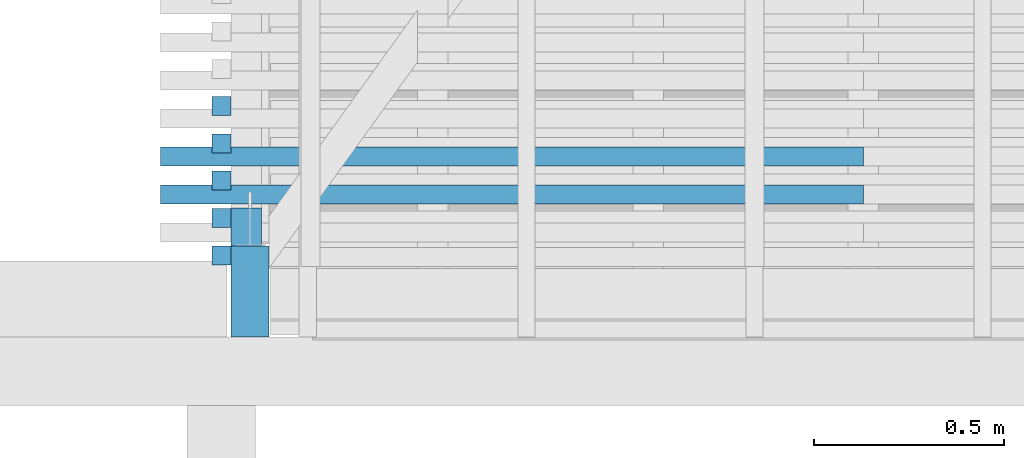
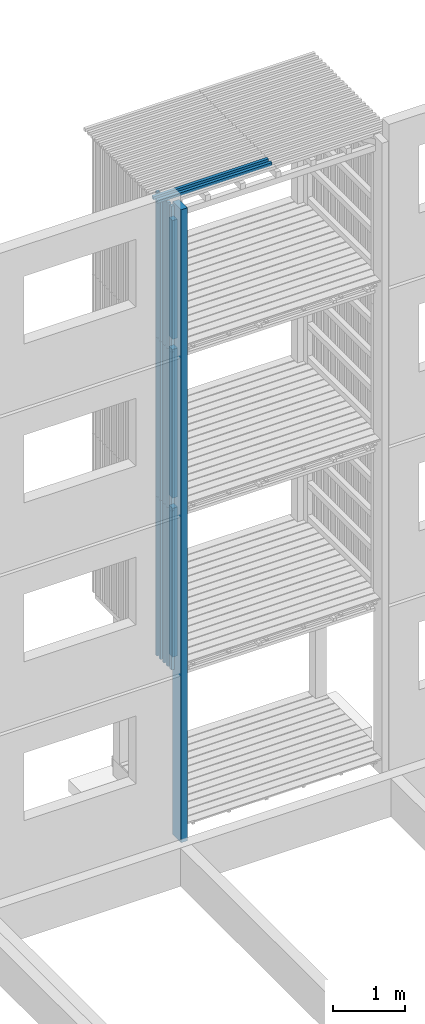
# One storey, part 84 of 182: 21 beams.
"""IFC2X3 building model written with IfcOpenShell, lengths in metres."""

import ifcopenshell
import ifcopenshell.guid

model = None  # the IFC model being written
_history = None  # IfcOwnerHistory: only IFC2X3 demands one
_inside = {}  # id of a spatial element -> (the spatial element, [elements in it])
_under = {}  # id of a project, library or spatial element -> (it, [spatial elements below it])
_declared = {}  # id of a project -> (the project, [libraries it declares])
_typed = {}  # id of a type object -> (the type object, [elements of that type])
_made_of = {}  # id of a material, layer set ... -> (it, [elements and type objects made of it])


def new_model(schema):
    """Start an empty IFC model of exactly this schema.

    Asked for "IFC4X3", IfcOpenShell would pick the latest addendum, in which some entities
    have other attributes; the version numbers below select the first issue.
    IFC2X3 requires an IfcOwnerHistory on every rooted entity: one is made here for all.
    """
    global model, _history
    if schema == "IFC4X3":
        model = ifcopenshell.file(schema_version=(4, 3, 0, 0))
    else:
        model = ifcopenshell.file(schema=schema)
    _inside.clear()
    _under.clear()
    _declared.clear()
    _typed.clear()
    _made_of.clear()
    _history = None
    if model.schema == "IFC2X3":
        org = make("IfcOrganization", Name="unknown")
        user = make(
            "IfcPersonAndOrganization",
            ThePerson=make("IfcPerson", FamilyName="unknown"),
            TheOrganization=org,
        )
        app = make(
            "IfcApplication",
            ApplicationDeveloper=org,
            Version="unknown",
            ApplicationFullName="unknown",
            ApplicationIdentifier="unknown",
        )
        _history = make(
            "IfcOwnerHistory",
            OwningUser=user,
            OwningApplication=app,
            ChangeAction="ADDED",
            CreationDate=0,
        )
    return model


def make(cls, **values):
    """One entity of the class cls with the attributes given. An attribute that is None is left unset."""
    return model.create_entity(
        cls, **{name: value for name, value in values.items() if value is not None}
    )


def rooted(cls, **values):
    """An entity with a GlobalId (a new one), such as an element, a storey or a relation."""
    return make(cls, GlobalId=ifcopenshell.guid.new(), OwnerHistory=_history, **values)


def si_unit(unit_type, name, prefix=None):
    """IfcSIUnit, for example si_unit("LENGTHUNIT", "METRE", prefix="MILLI")."""
    return make("IfcSIUnit", UnitType=unit_type, Prefix=prefix, Name=name)


def assignment(units):
    """IfcUnitAssignment: the units of a project."""
    return None if units is None else make("IfcUnitAssignment", Units=units)


def point(xyz):
    """IfcCartesianPoint."""
    return None if xyz is None else make("IfcCartesianPoint", Coordinates=xyz)


def direction(xyz):
    """IfcDirection."""
    return None if xyz is None else make("IfcDirection", DirectionRatios=xyz)


def frame(location, z_axis=None, x_axis=None):
    """IfcAxis2Placement3D, a coordinate frame: its origin and axes. An axis left out is left unset."""
    return make(
        "IfcAxis2Placement3D",
        Location=point(location),
        Axis=direction(z_axis),
        RefDirection=direction(x_axis),
    )


def origin():
    """The frame at (0, 0, 0) with its axes left unset."""
    return frame((0.0, 0.0, 0.0))


def place(relative_to, where):
    """IfcLocalPlacement: puts the frame where relative to a parent placement (None: the world)."""
    return make(
        "IfcLocalPlacement", PlacementRelTo=relative_to, RelativePlacement=where
    )


def context(
    kind, dimensions, precision=None, world=None, true_north=None, identifier=None
):
    """IfcGeometricRepresentationContext, for example the 3D "Model" context."""
    return make(
        "IfcGeometricRepresentationContext",
        ContextIdentifier=identifier,
        ContextType=kind,
        CoordinateSpaceDimension=dimensions,
        Precision=precision,
        WorldCoordinateSystem=world,
        TrueNorth=true_north,
    )


def project(units=None, contexts=None):
    """IfcProject with its units and contexts."""
    return rooted(
        "IfcProject",
        Name="project",
        RepresentationContexts=contexts,
        UnitsInContext=assignment(units),
    )


def spatial(cls, under=None, at=None, **own):
    """A site, building, storey or space (cls), placed at a placement, below another one or the project."""
    s = rooted(cls, ObjectPlacement=at, **own)
    if under is not None:
        _under.setdefault(under.id(), (under, []))[1].append(s)
    return s


def faces_of(points, faces, orient=None, outer=None):
    """IfcFace entities. A face is a list of loops; a loop is a list of indices into points, from 0.

    orient and outer hold one flag for each loop. By default every Orientation is true, the
    first loop of a face is its IfcFaceOuterBound and the others are IfcFaceBound.
    """
    made = []
    for i, loops in enumerate(faces):
        bounds = []
        for j, loop in enumerate(loops):
            is_outer = j == 0 if outer is None else outer[i][j]
            bounds.append(
                make(
                    "IfcFaceOuterBound" if is_outer else "IfcFaceBound",
                    Bound=make("IfcPolyLoop", Polygon=[points[k] for k in loop]),
                    Orientation=True if orient is None else orient[i][j],
                )
            )
        made.append(make("IfcFace", Bounds=bounds))
    return made


def faceted_brep(points, faces, orient=None, outer=None, voids=None):
    """IfcFacetedBrep: a solid bounded by flat faces; with voids (closed shells), ...WithVoids."""
    shared = [point(p) for p in points]
    hull = make("IfcClosedShell", CfsFaces=faces_of(shared, faces, orient, outer))
    if voids is None:
        return make("IfcFacetedBrep", Outer=hull)
    return make(
        "IfcFacetedBrepWithVoids",
        Outer=hull,
        Voids=[
            make(cls, CfsFaces=faces_of(shared, fs, o, b)) for cls, fs, o, b in voids
        ],
    )


def shape(context_of_items, identifier, shape_type, items):
    """IfcShapeRepresentation: the items that make up one representation, for example the "Body"."""
    return make(
        "IfcShapeRepresentation",
        ContextOfItems=context_of_items,
        RepresentationIdentifier=identifier,
        RepresentationType=shape_type,
        Items=items,
    )


def made_of(thing, what):
    """Note that an element or type object is made of a material, layer set ...; save() writes the relation."""
    if what is not None:
        _made_of.setdefault(what.id(), (what, []))[1].append(thing)
    return thing


def element(
    cls,
    number,
    at=None,
    inside=None,
    cuts=None,
    type_object=None,
    material=None,
    context=None,
    identifier="Body",
    shape_type=None,
    held_by="IfcProductDefinitionShape",
    body=None,
    shapes=None,
    **own,
):
    """One element of the class cls, such as IfcWall. Its Tag is "e" and its number.

    at: its placement. inside: the storey or other place that contains it. cuts: it is an
    opening in that element (IfcRelVoidsElement). A single representation is given by context,
    identifier, shape_type and body (its items); several are given by shapes. held_by: the class
    of the entity that holds the representations. save() writes the other relations.
    """
    e = rooted(cls, Tag="e%d" % number, ObjectPlacement=at, **own)
    if body is not None:
        shapes = [shape(context, identifier, shape_type, body)]
    if shapes is not None:
        e.Representation = make(held_by, Representations=shapes)
    if inside is not None:
        _inside.setdefault(inside.id(), (inside, []))[1].append(e)
    if cuts is not None:
        rooted(
            "IfcRelVoidsElement", RelatingBuildingElement=cuts, RelatedOpeningElement=e
        )
    if type_object is not None:
        _typed.setdefault(type_object.id(), (type_object, []))[1].append(e)
    return made_of(e, material)


def aggregate(whole, parts):
    """IfcRelAggregates: a whole, such as a stair, and the parts it consists of."""
    return rooted("IfcRelAggregates", RelatingObject=whole, RelatedObjects=parts)


def save(model, path):
    """Write the relations noted so far, then the file.

    IfcRelAggregates (storeys below a building ...), IfcRelContainedInSpatialStructure (elements
    in a storey), IfcRelDefinesByType, IfcRelAssociatesMaterial and IfcRelDeclares: one each for
    every whole, place, type object, material and project.
    """
    for whole, parts in _under.values():
        aggregate(whole, parts)
    for where, things in _inside.values():
        rooted(
            "IfcRelContainedInSpatialStructure",
            RelatedElements=things,
            RelatingStructure=where,
        )
    for kind, things in _typed.values():
        rooted("IfcRelDefinesByType", RelatedObjects=things, RelatingType=kind)
    for what, things in _made_of.values():
        rooted("IfcRelAssociatesMaterial", RelatedObjects=things, RelatingMaterial=what)
    for by, libraries in _declared.values():
        rooted("IfcRelDeclares", RelatingContext=by, RelatedDefinitions=libraries)
    model.write(path)


model = new_model("IFC2X3")

# Units and contexts
model_context = context("Model", 3, precision=1e-06, world=origin())
ifc_project = project(units=[si_unit("LENGTHUNIT", "METRE"), si_unit("PLANEANGLEUNIT", "RADIAN")], contexts=[model_context])

# Site, building, storey
site = spatial("IfcSite", under=ifc_project, CompositionType="ELEMENT")
building = spatial("IfcBuilding", under=site, CompositionType="ELEMENT")
storey = spatial("IfcBuildingStorey", under=building, Name="vs", CompositionType="ELEMENT", Elevation=-0.85)

# Beams
placement = place(None, origin())
beam_1_placement = place(placement, frame((44.68040135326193, 5.345077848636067, 10.47999999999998), z_axis=(0.0, 0.0, 1.0), x_axis=(-1.0, -2e-15, 0.0)))
element("IfcBeam", 1, at=beam_1_placement, inside=storey, Name="Bardage", context=model_context, shape_type="Brep", body=[
    faceted_brep([(1.850000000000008, -0.025000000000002, -0.024999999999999), (1.850000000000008, -0.025000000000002, 0.025000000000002), (-1e-15, -0.024999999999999, 0.025000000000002), (-1e-15, -0.024999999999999, -0.024999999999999), (1.850000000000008, -0.025000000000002, 0.025000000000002), (1.850000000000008, -0.025000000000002, -0.024999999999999), (1.850000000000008, 0.025000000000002, -0.024999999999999), (1.850000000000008, 0.025000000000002, 0.025000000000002), (1.850000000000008, 0.025000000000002, -0.024999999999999), (1.850000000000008, -0.025000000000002, -0.024999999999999), (-1e-15, -0.024999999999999, -0.024999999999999), (0.0, 0.025000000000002, -0.024999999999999), (1.850000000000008, 0.025000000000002, 0.025000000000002), (1.850000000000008, 0.025000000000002, -0.024999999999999), (0.0, 0.025000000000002, -0.024999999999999), (0.0, 0.025000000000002, 0.025000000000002), (-1e-15, -0.024999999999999, 0.025000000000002), (1.850000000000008, -0.025000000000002, 0.025000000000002), (1.850000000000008, 0.025000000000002, 0.025000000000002), (0.0, 0.025000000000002, 0.025000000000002), (-1e-15, -0.024999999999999, -0.024999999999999), (-1e-15, -0.024999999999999, 0.025000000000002), (0.0, 0.025000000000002, 0.025000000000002), (0.0, 0.025000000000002, -0.024999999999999)], [[[0, 1, 2, 3]], [[4, 5, 6, 7]], [[8, 9, 10, 11]], [[12, 13, 14, 15]], [[16, 17, 18, 19]], [[20, 21, 22, 23]]]),
])
beam_2_placement = place(placement, frame((44.68040135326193, 5.245077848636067, 10.47999999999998), z_axis=(0.0, 0.0, 1.0), x_axis=(-1.0, 0.0, 0.0)))
element("IfcBeam", 2, at=beam_2_placement, inside=storey, Name="Bardage", context=model_context, shape_type="Brep", body=[
    faceted_brep([(1.850000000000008, -0.024999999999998, -0.024999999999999), (1.850000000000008, -0.024999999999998, 0.025000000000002), (-1e-15, -0.024999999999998, 0.025000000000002), (-1e-15, -0.024999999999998, -0.024999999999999), (1.850000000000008, -0.024999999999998, 0.025000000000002), (1.850000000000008, -0.024999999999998, -0.024999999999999), (1.850000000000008, 0.025000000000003, -0.024999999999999), (1.850000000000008, 0.025000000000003, 0.025000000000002), (1.850000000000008, 0.025000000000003, -0.024999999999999), (1.850000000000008, -0.024999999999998, -0.024999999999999), (-1e-15, -0.024999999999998, -0.024999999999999), (-1e-15, 0.025000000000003, -0.024999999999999), (1.850000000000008, 0.025000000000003, 0.025000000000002), (1.850000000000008, 0.025000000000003, -0.024999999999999), (-1e-15, 0.025000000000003, -0.024999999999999), (-1e-15, 0.025000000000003, 0.025000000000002), (-1e-15, -0.024999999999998, 0.025000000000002), (1.850000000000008, -0.024999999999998, 0.025000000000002), (1.850000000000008, 0.025000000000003, 0.025000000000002), (-1e-15, 0.025000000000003, 0.025000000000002), (-1e-15, -0.024999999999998, -0.024999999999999), (-1e-15, -0.024999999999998, 0.025000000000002), (-1e-15, 0.025000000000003, 0.025000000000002), (-1e-15, 0.025000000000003, -0.024999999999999)], [[[0, 1, 2, 3]], [[4, 5, 6, 7]], [[8, 9, 10, 11]], [[12, 13, 14, 15]], [[16, 17, 18, 19]], [[20, 21, 22, 23]]]),
])
beam_3_placement = place(placement, frame((42.99040135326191, 5.379623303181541, 7.974999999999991), z_axis=(1.0, 0.0, 0.0), x_axis=(0.0, 1e-15, 1.0)))
element("IfcBeam", 3, at=beam_3_placement, inside=storey, Name="Bardage", context=model_context, shape_type="Brep", body=[
    faceted_brep([(0.0, -0.025000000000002, 0.025000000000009), (0.0, 0.024999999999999, 0.025000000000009), (0.0, 0.024999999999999, -0.025000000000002), (0.0, -0.025000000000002, -0.025000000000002), (2.479999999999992, 0.025000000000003, -0.025000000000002), (2.479999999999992, 0.025000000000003, 0.025000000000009), (2.479999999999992, -0.024999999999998, 0.025000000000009), (2.479999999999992, -0.024999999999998, -0.025000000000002), (0.0, 0.024999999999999, 0.025000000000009), (0.0, -0.025000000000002, 0.025000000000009), (2.479999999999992, -0.024999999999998, 0.025000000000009), (2.479999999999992, 0.025000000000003, 0.025000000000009), (0.0, 0.024999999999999, -0.025000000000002), (0.0, 0.024999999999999, 0.025000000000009), (2.479999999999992, 0.025000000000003, 0.025000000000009), (2.479999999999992, 0.025000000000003, -0.025000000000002), (0.0, -0.025000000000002, -0.025000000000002), (0.0, 0.024999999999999, -0.025000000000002), (2.479999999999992, 0.025000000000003, -0.025000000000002), (2.479999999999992, -0.024999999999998, -0.025000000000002), (2.479999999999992, -0.024999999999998, 0.025000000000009), (0.0, -0.025000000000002, 0.025000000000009), (0.0, -0.025000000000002, -0.025000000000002), (2.479999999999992, -0.024999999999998, -0.025000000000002)], [[[0, 1, 2, 3]], [[4, 5, 6, 7]], [[8, 9, 10, 11]], [[12, 13, 14, 15]], [[16, 17, 18, 19]], [[20, 21, 22, 23]]]),
])
beam_4_placement = place(placement, frame((42.99040135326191, 5.085077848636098, 7.974999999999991), z_axis=(1.0, 0.0, 0.0), x_axis=(0.0, 0.0, 1.0)))
element("IfcBeam", 4, at=beam_4_placement, inside=storey, Name="Bardage", context=model_context, shape_type="Brep", body=[
    faceted_brep([(0.0, -0.024999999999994, 0.025000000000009), (0.0, 0.025000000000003, 0.025000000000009), (0.0, 0.025000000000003, -0.025000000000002), (0.0, -0.024999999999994, -0.025000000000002), (2.479999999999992, 0.025000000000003, -0.025000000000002), (2.479999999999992, 0.025000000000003, 0.025000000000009), (2.479999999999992, -0.024999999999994, 0.025000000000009), (2.479999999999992, -0.024999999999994, -0.025000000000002), (0.0, 0.025000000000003, 0.025000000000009), (0.0, -0.024999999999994, 0.025000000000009), (2.479999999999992, -0.024999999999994, 0.025000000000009), (2.479999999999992, 0.025000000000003, 0.025000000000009), (0.0, 0.025000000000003, -0.025000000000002), (0.0, 0.025000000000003, 0.025000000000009), (2.479999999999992, 0.025000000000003, 0.025000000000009), (2.479999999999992, 0.025000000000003, -0.025000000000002), (0.0, -0.024999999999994, -0.025000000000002), (0.0, 0.025000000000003, -0.025000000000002), (2.479999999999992, 0.025000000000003, -0.025000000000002), (2.479999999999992, -0.024999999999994, -0.025000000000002), (2.479999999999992, -0.024999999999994, 0.025000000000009), (0.0, -0.024999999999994, 0.025000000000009), (0.0, -0.024999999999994, -0.025000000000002), (2.479999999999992, -0.024999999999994, -0.025000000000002)], [[[0, 1, 2, 3]], [[4, 5, 6, 7]], [[8, 9, 10, 11]], [[12, 13, 14, 15]], [[16, 17, 18, 19]], [[20, 21, 22, 23]]]),
])
beam_5_placement = place(placement, frame((42.99040135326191, 5.379623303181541, 5.274999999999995), z_axis=(1.0, 0.0, 0.0), x_axis=(0.0, 1e-15, 1.0)))
element("IfcBeam", 5, at=beam_5_placement, inside=storey, Name="Bardage", context=model_context, shape_type="Brep", body=[
    faceted_brep([(2.699999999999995, 0.025000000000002, 0.025000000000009), (2.699999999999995, -0.024999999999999, 0.025000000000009), (2.699999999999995, -0.024999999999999, -0.025000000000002), (2.699999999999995, 0.025000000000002, -0.025000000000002), (1e-15, 0.024999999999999, 0.025000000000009), (2.699999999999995, 0.025000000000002, 0.025000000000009), (2.699999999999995, 0.025000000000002, -0.025000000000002), (1e-15, 0.024999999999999, -0.025000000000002), (1e-15, -0.025000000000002, 0.025000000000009), (1e-15, 0.024999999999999, 0.025000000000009), (1e-15, 0.024999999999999, -0.025000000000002), (1e-15, -0.025000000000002, -0.025000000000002), (1e-15, 0.024999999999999, 0.025000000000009), (1e-15, -0.025000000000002, 0.025000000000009), (2.699999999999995, -0.024999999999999, 0.025000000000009), (2.699999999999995, 0.025000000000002, 0.025000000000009), (1e-15, -0.025000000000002, 0.025000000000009), (1e-15, -0.025000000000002, -0.025000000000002), (2.699999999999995, -0.024999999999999, -0.025000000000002), (2.699999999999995, -0.024999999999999, 0.025000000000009), (1e-15, -0.025000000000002, -0.025000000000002), (1e-15, 0.024999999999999, -0.025000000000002), (2.699999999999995, 0.025000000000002, -0.025000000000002), (2.699999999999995, -0.024999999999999, -0.025000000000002)], [[[0, 1, 2, 3]], [[4, 5, 6, 7]], [[8, 9, 10, 11]], [[12, 13, 14, 15]], [[16, 17, 18, 19]], [[20, 21, 22, 23]]]),
])
beam_6_placement = place(placement, frame((42.99040135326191, 5.281441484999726, 5.274999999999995), z_axis=(1.0, 0.0, 0.0), x_axis=(0.0, 0.0, 1.0)))
element("IfcBeam", 6, at=beam_6_placement, inside=storey, Name="Bardage", context=model_context, shape_type="Brep", body=[
    faceted_brep([(2.699999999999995, 0.024999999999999, 0.025000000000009), (2.699999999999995, -0.024999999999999, 0.025000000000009), (2.699999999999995, -0.024999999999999, -0.025000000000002), (2.699999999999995, 0.024999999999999, -0.025000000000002), (1e-15, 0.024999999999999, 0.025000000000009), (2.699999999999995, 0.024999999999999, 0.025000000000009), (2.699999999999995, 0.024999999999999, -0.025000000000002), (1e-15, 0.024999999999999, -0.025000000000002), (1e-15, -0.024999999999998, 0.025000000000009), (1e-15, 0.024999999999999, 0.025000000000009), (1e-15, 0.024999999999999, -0.025000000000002), (1e-15, -0.024999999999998, -0.025000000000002), (1e-15, 0.024999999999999, 0.025000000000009), (1e-15, -0.024999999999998, 0.025000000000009), (2.699999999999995, -0.024999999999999, 0.025000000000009), (2.699999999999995, 0.024999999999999, 0.025000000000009), (1e-15, -0.024999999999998, 0.025000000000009), (1e-15, -0.024999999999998, -0.025000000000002), (2.699999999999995, -0.024999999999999, -0.025000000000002), (2.699999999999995, -0.024999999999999, 0.025000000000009), (1e-15, -0.024999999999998, -0.025000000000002), (1e-15, 0.024999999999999, -0.025000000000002), (2.699999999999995, 0.024999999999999, -0.025000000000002), (2.699999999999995, -0.024999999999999, -0.025000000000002)], [[[0, 1, 2, 3]], [[4, 5, 6, 7]], [[8, 9, 10, 11]], [[12, 13, 14, 15]], [[16, 17, 18, 19]], [[20, 21, 22, 23]]]),
])
beam_7_placement = place(placement, frame((42.99040135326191, 5.183259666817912, 5.274999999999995), z_axis=(1.0, 0.0, 0.0), x_axis=(0.0, 0.0, 1.0)))
element("IfcBeam", 7, at=beam_7_placement, inside=storey, Name="Bardage", context=model_context, shape_type="Brep", body=[
    faceted_brep([(2.699999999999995, 0.025000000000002, 0.025000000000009), (2.699999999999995, -0.024999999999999, 0.025000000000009), (2.699999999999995, -0.024999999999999, -0.025000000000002), (2.699999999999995, 0.025000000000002, -0.025000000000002), (1e-15, 0.025000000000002, 0.025000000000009), (2.699999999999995, 0.025000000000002, 0.025000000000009), (2.699999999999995, 0.025000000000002, -0.025000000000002), (1e-15, 0.025000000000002, -0.025000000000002), (1e-15, -0.024999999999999, 0.025000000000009), (1e-15, 0.025000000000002, 0.025000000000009), (1e-15, 0.025000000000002, -0.025000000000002), (1e-15, -0.024999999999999, -0.025000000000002), (1e-15, 0.025000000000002, 0.025000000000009), (1e-15, -0.024999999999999, 0.025000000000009), (2.699999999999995, -0.024999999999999, 0.025000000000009), (2.699999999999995, 0.025000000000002, 0.025000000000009), (1e-15, -0.024999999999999, 0.025000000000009), (1e-15, -0.024999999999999, -0.025000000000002), (2.699999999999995, -0.024999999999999, -0.025000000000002), (2.699999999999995, -0.024999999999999, 0.025000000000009), (1e-15, -0.024999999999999, -0.025000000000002), (1e-15, 0.025000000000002, -0.025000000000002), (2.699999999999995, 0.025000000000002, -0.025000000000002), (2.699999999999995, -0.024999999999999, -0.025000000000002)], [[[0, 1, 2, 3]], [[4, 5, 6, 7]], [[8, 9, 10, 11]], [[12, 13, 14, 15]], [[16, 17, 18, 19]], [[20, 21, 22, 23]]]),
])
beam_8_placement = place(placement, frame((42.99040135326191, 5.379623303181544, 2.575000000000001), z_axis=(1.0, 0.0, 0.0), x_axis=(0.0, 0.0, 1.0)))
element("IfcBeam", 8, at=beam_8_placement, inside=storey, Name="Bardage", context=model_context, shape_type="Brep", body=[
    faceted_brep([(2.699961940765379, -0.025000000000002, 0.025000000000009), (2.699961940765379, -0.025000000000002, -0.025000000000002), (2.699961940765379, 0.025000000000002, -0.025000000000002), (2.699961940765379, 0.025000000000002, 0.025000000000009), (0.0, -0.024999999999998, 0.025000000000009), (2.699961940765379, -0.025000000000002, 0.025000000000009), (2.699961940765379, 0.025000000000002, 0.025000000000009), (0.0, 0.025000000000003, 0.025000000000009), (0.0, -0.024999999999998, 0.025000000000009), (0.0, 0.025000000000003, 0.025000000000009), (0.0, 0.025000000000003, -0.025000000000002), (0.0, -0.024999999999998, -0.025000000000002), (0.0, -0.024999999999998, 0.025000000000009), (0.0, -0.024999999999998, -0.025000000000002), (2.699961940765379, -0.025000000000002, -0.025000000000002), (2.699961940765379, -0.025000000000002, 0.025000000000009), (0.0, -0.024999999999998, -0.025000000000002), (0.0, 0.025000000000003, -0.025000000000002), (2.699961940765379, 0.025000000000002, -0.025000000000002), (2.699961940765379, -0.025000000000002, -0.025000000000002), (0.0, 0.025000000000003, -0.025000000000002), (0.0, 0.025000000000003, 0.025000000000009), (2.699961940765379, 0.025000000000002, 0.025000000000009), (2.699961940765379, 0.025000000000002, -0.025000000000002)], [[[0, 1, 2, 3]], [[4, 5, 6, 7]], [[8, 9, 10, 11]], [[12, 13, 14, 15]], [[16, 17, 18, 19]], [[20, 21, 22, 23]]]),
])
beam_9_placement = place(placement, frame((43.055401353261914, 5.160077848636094, 5.446999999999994), z_axis=(0.0, 1.0, 0.0), x_axis=(0.0, 0.0, 1.0)))
element("IfcBeam", 9, at=beam_9_placement, inside=storey, Name="Support bardage", context=model_context, shape_type="Brep", body=[
    faceted_brep([(2.527999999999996, -0.039999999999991, -0.050000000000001), (2.527999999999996, 0.040000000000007, -0.050000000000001), (2.527999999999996, 0.040000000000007, 0.05), (2.527999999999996, -0.039999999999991, 0.05), (-1e-15, -0.039999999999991, -0.050000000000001), (2.527999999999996, -0.039999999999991, -0.050000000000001), (2.527999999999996, -0.039999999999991, 0.05), (-1e-15, -0.039999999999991, 0.05), (-1e-15, -0.039999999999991, -0.050000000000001), (-1e-15, -0.039999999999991, 0.05), (-1e-15, 0.040000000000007, 0.05), (-1e-15, 0.040000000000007, -0.050000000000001), (-1e-15, -0.039999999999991, -0.050000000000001), (-1e-15, 0.040000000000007, -0.050000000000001), (2.527999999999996, 0.040000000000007, -0.050000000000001), (2.527999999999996, -0.039999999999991, -0.050000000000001), (-1e-15, 0.040000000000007, -0.050000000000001), (-1e-15, 0.040000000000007, 0.05), (2.527999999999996, 0.040000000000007, 0.05), (2.527999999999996, 0.040000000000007, -0.050000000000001), (-1e-15, 0.040000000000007, 0.05), (-1e-15, -0.039999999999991, 0.05), (2.527999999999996, -0.039999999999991, 0.05), (2.527999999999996, 0.040000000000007, 0.05)], [[[0, 1, 2, 3]], [[4, 5, 6, 7]], [[8, 9, 10, 11]], [[12, 13, 14, 15]], [[16, 17, 18, 19]], [[20, 21, 22, 23]]]),
])
beam_10_placement = place(placement, frame((42.99040135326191, 5.281441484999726, 7.974999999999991), z_axis=(1.0, 0.0, 0.0), x_axis=(0.0, 0.0, 1.0)))
element("IfcBeam", 10, at=beam_10_placement, inside=storey, Name="Bardage", context=model_context, shape_type="Brep", body=[
    faceted_brep([(0.0, -0.024999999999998, 0.025000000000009), (0.0, 0.024999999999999, 0.025000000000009), (0.0, 0.024999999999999, -0.025000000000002), (0.0, -0.024999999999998, -0.025000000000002), (2.479999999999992, 0.024999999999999, -0.025000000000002), (2.479999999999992, 0.024999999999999, 0.025000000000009), (2.479999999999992, -0.024999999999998, 0.025000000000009), (2.479999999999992, -0.024999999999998, -0.025000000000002), (0.0, 0.024999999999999, 0.025000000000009), (0.0, -0.024999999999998, 0.025000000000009), (2.479999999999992, -0.024999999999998, 0.025000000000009), (2.479999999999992, 0.024999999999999, 0.025000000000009), (0.0, 0.024999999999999, -0.025000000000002), (0.0, 0.024999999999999, 0.025000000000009), (2.479999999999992, 0.024999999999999, 0.025000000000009), (2.479999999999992, 0.024999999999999, -0.025000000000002), (0.0, -0.024999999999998, -0.025000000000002), (0.0, 0.024999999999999, -0.025000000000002), (2.479999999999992, 0.024999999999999, -0.025000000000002), (2.479999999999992, -0.024999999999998, -0.025000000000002), (2.479999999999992, -0.024999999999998, 0.025000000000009), (0.0, -0.024999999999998, 0.025000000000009), (0.0, -0.024999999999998, -0.025000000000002), (2.479999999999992, -0.024999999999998, -0.025000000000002)], [[[0, 1, 2, 3]], [[4, 5, 6, 7]], [[8, 9, 10, 11]], [[12, 13, 14, 15]], [[16, 17, 18, 19]], [[20, 21, 22, 23]]]),
])
beam_11_placement = place(placement, frame((42.99040135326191, 5.281441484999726, 2.575000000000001), z_axis=(1.0, 0.0, 0.0), x_axis=(0.0, 0.0, 1.0)))
element("IfcBeam", 11, at=beam_11_placement, inside=storey, Name="Bardage", context=model_context, shape_type="Brep", body=[
    faceted_brep([(2.699961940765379, -0.024999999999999, 0.025000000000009), (2.699961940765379, -0.024999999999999, -0.025000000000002), (2.699961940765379, 0.024999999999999, -0.025000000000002), (2.699961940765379, 0.024999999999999, 0.025000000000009), (0.0, -0.024999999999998, 0.025000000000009), (2.699961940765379, -0.024999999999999, 0.025000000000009), (2.699961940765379, 0.024999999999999, 0.025000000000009), (0.0, 0.024999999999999, 0.025000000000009), (0.0, -0.024999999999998, 0.025000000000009), (0.0, 0.024999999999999, 0.025000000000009), (0.0, 0.024999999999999, -0.025000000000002), (0.0, -0.024999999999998, -0.025000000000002), (0.0, -0.024999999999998, 0.025000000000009), (0.0, -0.024999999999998, -0.025000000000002), (2.699961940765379, -0.024999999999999, -0.025000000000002), (2.699961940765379, -0.024999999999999, 0.025000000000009), (0.0, -0.024999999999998, -0.025000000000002), (0.0, 0.024999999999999, -0.025000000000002), (2.699961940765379, 0.024999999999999, -0.025000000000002), (2.699961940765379, -0.024999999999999, -0.025000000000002), (0.0, 0.024999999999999, -0.025000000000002), (0.0, 0.024999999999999, 0.025000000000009), (2.699961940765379, 0.024999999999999, 0.025000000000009), (2.699961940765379, 0.024999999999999, -0.025000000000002)], [[[0, 1, 2, 3]], [[4, 5, 6, 7]], [[8, 9, 10, 11]], [[12, 13, 14, 15]], [[16, 17, 18, 19]], [[20, 21, 22, 23]]]),
])
for number, where, z_axis, x_axis in (
    (12, (42.99040135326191, 5.477805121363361, 2.575000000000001), (1.0, 0.0, 0.0), (0.0, 0.0, 1.0)),
    (13, (42.99040135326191, 5.183259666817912, 2.575000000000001), (1.0, 0.0, 0.0), (0.0, 0.0, 1.0)),
):
    element("IfcBeam", number, at=place(placement, frame(where, z_axis=z_axis, x_axis=x_axis)), inside=storey, Name="Bardage", context=model_context, shape_type="Brep", body=[
        faceted_brep([(2.699961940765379, -0.024999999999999, 0.025000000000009), (2.699961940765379, -0.024999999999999, -0.025000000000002), (2.699961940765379, 0.025000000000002, -0.025000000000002), (2.699961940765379, 0.025000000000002, 0.025000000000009), (0.0, -0.024999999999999, 0.025000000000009), (2.699961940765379, -0.024999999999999, 0.025000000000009), (2.699961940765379, 0.025000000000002, 0.025000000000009), (0.0, 0.025000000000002, 0.025000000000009), (0.0, -0.024999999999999, 0.025000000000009), (0.0, 0.025000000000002, 0.025000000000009), (0.0, 0.025000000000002, -0.025000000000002), (0.0, -0.024999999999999, -0.025000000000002), (0.0, -0.024999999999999, 0.025000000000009), (0.0, -0.024999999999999, -0.025000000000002), (2.699961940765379, -0.024999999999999, -0.025000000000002), (2.699961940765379, -0.024999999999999, 0.025000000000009), (0.0, -0.024999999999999, -0.025000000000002), (0.0, 0.025000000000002, -0.025000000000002), (2.699961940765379, 0.025000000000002, -0.025000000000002), (2.699961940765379, -0.024999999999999, -0.025000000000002), (0.0, 0.025000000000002, -0.025000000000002), (0.0, 0.025000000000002, 0.025000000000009), (2.699961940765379, 0.025000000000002, 0.025000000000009), (2.699961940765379, 0.025000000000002, -0.025000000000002)], [[[0, 1, 2, 3]], [[4, 5, 6, 7]], [[8, 9, 10, 11]], [[12, 13, 14, 15]], [[16, 17, 18, 19]], [[20, 21, 22, 23]]]),
    ])
beam_12_placement = place(placement, frame((42.99040135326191, 5.477805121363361, 7.974999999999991), z_axis=(1.0, 0.0, 0.0), x_axis=(0.0, 0.0, 1.0)))
element("IfcBeam", 14, at=beam_12_placement, inside=storey, Name="Bardage", context=model_context, shape_type="Brep", body=[
    faceted_brep([(0.0, -0.024999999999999, 0.025000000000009), (0.0, 0.025000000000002, 0.025000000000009), (0.0, 0.025000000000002, -0.025000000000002), (0.0, -0.024999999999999, -0.025000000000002), (2.479999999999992, 0.025000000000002, -0.025000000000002), (2.479999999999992, 0.025000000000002, 0.025000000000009), (2.479999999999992, -0.024999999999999, 0.025000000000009), (2.479999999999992, -0.024999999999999, -0.025000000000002), (0.0, 0.025000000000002, 0.025000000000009), (0.0, -0.024999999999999, 0.025000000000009), (2.479999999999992, -0.024999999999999, 0.025000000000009), (2.479999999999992, 0.025000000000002, 0.025000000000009), (0.0, 0.025000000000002, -0.025000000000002), (0.0, 0.025000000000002, 0.025000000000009), (2.479999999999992, 0.025000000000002, 0.025000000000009), (2.479999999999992, 0.025000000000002, -0.025000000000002), (0.0, -0.024999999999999, -0.025000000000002), (0.0, 0.025000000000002, -0.025000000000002), (2.479999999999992, 0.025000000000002, -0.025000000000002), (2.479999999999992, -0.024999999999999, -0.025000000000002), (2.479999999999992, -0.024999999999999, 0.025000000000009), (0.0, -0.024999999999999, 0.025000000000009), (0.0, -0.024999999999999, -0.025000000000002), (2.479999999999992, -0.024999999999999, -0.025000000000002)], [[[0, 1, 2, 3]], [[4, 5, 6, 7]], [[8, 9, 10, 11]], [[12, 13, 14, 15]], [[16, 17, 18, 19]], [[20, 21, 22, 23]]]),
])
beam_13_placement = place(placement, frame((43.055401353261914, 5.160077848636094, 8.14699999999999), z_axis=(0.0, 1.0, 0.0), x_axis=(0.0, 0.0, 1.0)))
element("IfcBeam", 15, at=beam_13_placement, inside=storey, Name="Support bardage", context=model_context, shape_type="Brep", body=[
    faceted_brep([(2.017999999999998, -0.039999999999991, 0.05), (2.017999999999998, -0.039999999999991, -0.050000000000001), (2.017999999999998, 0.040000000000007, -0.050000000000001), (2.017999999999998, 0.040000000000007, 0.05), (1e-15, -0.039999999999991, -0.050000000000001), (1e-15, -0.039999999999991, 0.05), (1e-15, 0.040000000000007, 0.05), (1e-15, 0.040000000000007, -0.050000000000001), (2.017999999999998, 0.040000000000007, -0.050000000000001), (2.017999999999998, -0.039999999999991, -0.050000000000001), (1e-15, -0.039999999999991, -0.050000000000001), (1e-15, 0.040000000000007, -0.050000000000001), (1e-15, -0.039999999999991, -0.050000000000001), (2.017999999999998, -0.039999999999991, -0.050000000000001), (2.017999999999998, -0.039999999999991, 0.05), (1e-15, -0.039999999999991, 0.05), (1e-15, -0.039999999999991, 0.05), (2.017999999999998, -0.039999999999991, 0.05), (2.017999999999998, 0.040000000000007, 0.05), (1e-15, 0.040000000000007, 0.05), (1e-15, 0.040000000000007, 0.05), (2.017999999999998, 0.040000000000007, 0.05), (2.017999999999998, 0.040000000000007, -0.050000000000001), (1e-15, 0.040000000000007, -0.050000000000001)], [[[0, 1, 2, 3]], [[4, 5, 6, 7]], [[8, 9, 10, 11]], [[12, 13, 14, 15]], [[16, 17, 18, 19]], [[20, 21, 22, 23]]]),
])
beam_14_placement = place(placement, frame((42.99040135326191, 5.085077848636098, 5.274999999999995), z_axis=(1.0, 0.0, 0.0), x_axis=(0.0, 0.0, 1.0)))
element("IfcBeam", 16, at=beam_14_placement, inside=storey, Name="Bardage", context=model_context, shape_type="Brep", body=[
    faceted_brep([(2.699999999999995, 0.025000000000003, 0.025000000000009), (2.699999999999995, -0.024999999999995, 0.025000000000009), (2.699999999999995, -0.024999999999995, -0.025000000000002), (2.699999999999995, 0.025000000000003, -0.025000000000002), (1e-15, 0.025000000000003, 0.025000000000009), (2.699999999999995, 0.025000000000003, 0.025000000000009), (2.699999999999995, 0.025000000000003, -0.025000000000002), (1e-15, 0.025000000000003, -0.025000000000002), (1e-15, -0.024999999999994, 0.025000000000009), (1e-15, 0.025000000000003, 0.025000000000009), (1e-15, 0.025000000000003, -0.025000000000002), (1e-15, -0.024999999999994, -0.025000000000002), (1e-15, 0.025000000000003, 0.025000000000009), (1e-15, -0.024999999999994, 0.025000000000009), (2.699999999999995, -0.024999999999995, 0.025000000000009), (2.699999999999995, 0.025000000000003, 0.025000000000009), (1e-15, -0.024999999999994, 0.025000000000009), (1e-15, -0.024999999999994, -0.025000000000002), (2.699999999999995, -0.024999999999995, -0.025000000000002), (2.699999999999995, -0.024999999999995, 0.025000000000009), (1e-15, -0.024999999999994, -0.025000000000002), (1e-15, 0.025000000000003, -0.025000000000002), (2.699999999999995, 0.025000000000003, -0.025000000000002), (2.699999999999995, -0.024999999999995, -0.025000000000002)], [[[0, 1, 2, 3]], [[4, 5, 6, 7]], [[8, 9, 10, 11]], [[12, 13, 14, 15]], [[16, 17, 18, 19]], [[20, 21, 22, 23]]]),
])
beam_15_placement = place(placement, frame((42.99040135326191, 5.085077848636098, 2.575000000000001), z_axis=(1.0, 0.0, 0.0), x_axis=(0.0, 0.0, 1.0)))
element("IfcBeam", 17, at=beam_15_placement, inside=storey, Name="Bardage", context=model_context, shape_type="Brep", body=[
    faceted_brep([(2.699961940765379, -0.024999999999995, 0.025000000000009), (2.699961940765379, -0.024999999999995, -0.025000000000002), (2.699961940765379, 0.025000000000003, -0.025000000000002), (2.699961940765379, 0.025000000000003, 0.025000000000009), (0.0, -0.024999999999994, 0.025000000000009), (2.699961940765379, -0.024999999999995, 0.025000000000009), (2.699961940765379, 0.025000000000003, 0.025000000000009), (0.0, 0.025000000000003, 0.025000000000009), (0.0, -0.024999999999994, 0.025000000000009), (0.0, 0.025000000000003, 0.025000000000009), (0.0, 0.025000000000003, -0.025000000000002), (0.0, -0.024999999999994, -0.025000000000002), (0.0, -0.024999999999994, 0.025000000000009), (0.0, -0.024999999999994, -0.025000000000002), (2.699961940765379, -0.024999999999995, -0.025000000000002), (2.699961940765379, -0.024999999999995, 0.025000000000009), (0.0, -0.024999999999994, -0.025000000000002), (0.0, 0.025000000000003, -0.025000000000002), (2.699961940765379, 0.025000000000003, -0.025000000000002), (2.699961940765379, -0.024999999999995, -0.025000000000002), (0.0, 0.025000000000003, -0.025000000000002), (0.0, 0.025000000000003, 0.025000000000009), (2.699961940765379, 0.025000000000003, 0.025000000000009), (2.699961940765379, 0.025000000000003, -0.025000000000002)], [[[0, 1, 2, 3]], [[4, 5, 6, 7]], [[8, 9, 10, 11]], [[12, 13, 14, 15]], [[16, 17, 18, 19]], [[20, 21, 22, 23]]]),
])
beam_16_placement = place(placement, frame((42.99040135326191, 5.477805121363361, 5.274999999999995), z_axis=(1.0, 0.0, 0.0), x_axis=(0.0, 0.0, 1.0)))
element("IfcBeam", 18, at=beam_16_placement, inside=storey, Name="Bardage", context=model_context, shape_type="Brep", body=[
    faceted_brep([(2.699999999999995, 0.025000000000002, 0.025000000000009), (2.699999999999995, -0.024999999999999, 0.025000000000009), (2.699999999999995, -0.024999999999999, -0.025000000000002), (2.699999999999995, 0.025000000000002, -0.025000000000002), (1e-15, 0.025000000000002, 0.025000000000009), (2.699999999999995, 0.025000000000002, 0.025000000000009), (2.699999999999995, 0.025000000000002, -0.025000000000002), (1e-15, 0.025000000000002, -0.025000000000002), (1e-15, -0.024999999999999, 0.025000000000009), (1e-15, 0.025000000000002, 0.025000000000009), (1e-15, 0.025000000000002, -0.025000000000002), (1e-15, -0.024999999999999, -0.025000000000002), (1e-15, 0.025000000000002, 0.025000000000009), (1e-15, -0.024999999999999, 0.025000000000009), (2.699999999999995, -0.024999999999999, 0.025000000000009), (2.699999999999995, 0.025000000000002, 0.025000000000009), (1e-15, -0.024999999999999, 0.025000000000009), (1e-15, -0.024999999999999, -0.025000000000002), (2.699999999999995, -0.024999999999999, -0.025000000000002), (2.699999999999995, -0.024999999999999, 0.025000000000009), (1e-15, -0.024999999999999, -0.025000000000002), (1e-15, 0.025000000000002, -0.025000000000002), (2.699999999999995, 0.025000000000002, -0.025000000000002), (2.699999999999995, -0.024999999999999, -0.025000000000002)], [[[0, 1, 2, 3]], [[4, 5, 6, 7]], [[8, 9, 10, 11]], [[12, 13, 14, 15]], [[16, 17, 18, 19]], [[20, 21, 22, 23]]]),
])
beam_17_placement = place(placement, frame((42.99040135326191, 5.183259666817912, 7.974999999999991), z_axis=(1.0, 0.0, 0.0), x_axis=(0.0, 0.0, 1.0)))
element("IfcBeam", 19, at=beam_17_placement, inside=storey, Name="Bardage", context=model_context, shape_type="Brep", body=[
    faceted_brep([(0.0, -0.024999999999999, 0.025000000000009), (0.0, 0.025000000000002, 0.025000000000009), (0.0, 0.025000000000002, -0.025000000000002), (0.0, -0.024999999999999, -0.025000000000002), (2.479999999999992, 0.025000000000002, -0.025000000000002), (2.479999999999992, 0.025000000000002, 0.025000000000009), (2.479999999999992, -0.024999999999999, 0.025000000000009), (2.479999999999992, -0.024999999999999, -0.025000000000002), (0.0, 0.025000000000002, 0.025000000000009), (0.0, -0.024999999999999, 0.025000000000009), (2.479999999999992, -0.024999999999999, 0.025000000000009), (2.479999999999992, 0.025000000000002, 0.025000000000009), (0.0, 0.025000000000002, -0.025000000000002), (0.0, 0.025000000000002, 0.025000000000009), (2.479999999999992, 0.025000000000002, 0.025000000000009), (2.479999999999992, 0.025000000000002, -0.025000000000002), (0.0, -0.024999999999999, -0.025000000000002), (0.0, 0.025000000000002, -0.025000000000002), (2.479999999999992, 0.025000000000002, -0.025000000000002), (2.479999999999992, -0.024999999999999, -0.025000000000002), (2.479999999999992, -0.024999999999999, 0.025000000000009), (0.0, -0.024999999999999, 0.025000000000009), (0.0, -0.024999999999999, -0.025000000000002), (2.479999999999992, -0.024999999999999, -0.025000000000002)], [[[0, 1, 2, 3]], [[4, 5, 6, 7]], [[8, 9, 10, 11]], [[12, 13, 14, 15]], [[16, 17, 18, 19]], [[20, 21, 22, 23]]]),
])
beam_18_placement = place(placement, frame((43.055401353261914, 5.160077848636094, 2.746999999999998), z_axis=(0.0, 1.0, 0.0), x_axis=(0.0, 0.0, 1.0)))
element("IfcBeam", 20, at=beam_18_placement, inside=storey, Name="Support bardage", context=model_context, shape_type="Brep", body=[
    faceted_brep([(2.527961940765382, 0.040000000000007, -0.050000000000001), (2.527961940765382, 0.040000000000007, 0.05), (2.527961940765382, -0.039999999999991, 0.05), (2.527961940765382, -0.039999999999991, -0.050000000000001), (0.0, 0.040000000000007, -0.050000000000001), (2.527961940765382, 0.040000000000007, -0.050000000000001), (2.527961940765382, -0.039999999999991, -0.050000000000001), (0.0, -0.039999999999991, -0.050000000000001), (0.0, 0.040000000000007, -0.050000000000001), (0.0, -0.039999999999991, -0.050000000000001), (0.0, -0.039999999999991, 0.05), (0.0, 0.040000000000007, 0.05), (0.0, 0.040000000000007, -0.050000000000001), (0.0, 0.040000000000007, 0.05), (2.527961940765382, 0.040000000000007, 0.05), (2.527961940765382, 0.040000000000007, -0.050000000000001), (0.0, 0.040000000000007, 0.05), (0.0, -0.039999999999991, 0.05), (2.527961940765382, -0.039999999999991, 0.05), (2.527961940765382, 0.040000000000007, 0.05), (0.0, -0.039999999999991, 0.05), (0.0, -0.039999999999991, -0.050000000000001), (2.527961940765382, -0.039999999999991, -0.050000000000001), (2.527961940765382, -0.039999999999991, 0.05)], [[[0, 1, 2, 3]], [[4, 5, 6, 7]], [[8, 9, 10, 11]], [[12, 13, 14, 15]], [[16, 17, 18, 19]], [[20, 21, 22, 23]]]),
])
beam_19_placement = place(placement, frame((43.06540135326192, 4.990077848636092, 10.494999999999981), z_axis=(0.0, 1.0, 0.0), x_axis=(0.0, 0.0, -1.0)))
element("IfcBeam", 21, at=beam_19_placement, inside=storey, Name="Poteau", context=model_context, shape_type="Brep", body=[
    faceted_brep([(0.0, -0.049999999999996, 0.120000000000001), (0.0, -0.049999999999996, -0.120000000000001), (10.754999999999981, -0.049999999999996, -0.120000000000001), (10.754999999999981, -0.049999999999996, 0.120000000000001), (10.754999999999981, -0.049999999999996, -0.120000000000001), (0.0, -0.049999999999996, -0.120000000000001), (0.0, 0.049999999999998, -0.120000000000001), (10.754999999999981, 0.049999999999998, -0.120000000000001), (10.754999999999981, -0.049999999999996, 0.120000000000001), (10.754999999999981, -0.049999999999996, -0.120000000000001), (10.754999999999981, 0.049999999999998, -0.120000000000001), (10.754999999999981, 0.049999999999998, 0.120000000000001), (0.0, -0.049999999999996, 0.120000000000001), (10.754999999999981, -0.049999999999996, 0.120000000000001), (10.754999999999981, 0.049999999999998, 0.120000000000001), (0.0, 0.049999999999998, 0.120000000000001), (10.754999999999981, 0.049999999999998, -0.120000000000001), (0.0, 0.049999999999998, -0.120000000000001), (0.0, 0.049999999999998, 0.120000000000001), (10.754999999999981, 0.049999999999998, 0.120000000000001), (0.0, 0.049999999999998, 0.120000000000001), (0.0, 0.049999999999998, -0.120000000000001), (0.0, -0.049999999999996, -0.120000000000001), (0.0, -0.049999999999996, 0.120000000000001)], [[[0, 1, 2, 3]], [[4, 5, 6, 7]], [[8, 9, 10, 11]], [[12, 13, 14, 15]], [[16, 17, 18, 19]], [[20, 21, 22, 23]]]),
])

save(model, "model.ifc")
